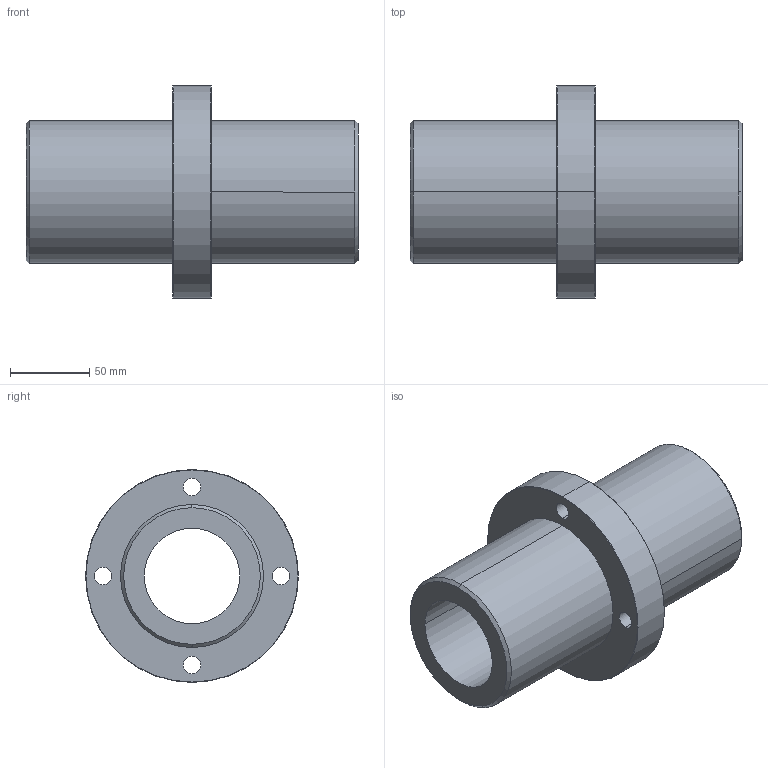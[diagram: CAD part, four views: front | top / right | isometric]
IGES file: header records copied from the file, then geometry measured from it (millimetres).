
Start section: 3D InterOp IGES (Version 21 0 1), Spatial Corp. Copyright (c) 1999-2007.
Global section: file name: CFPJR60.igs; native system: Spatial Corp.; preprocessor: 3D InterOp GENERIC/IGES 3.0; author: Noname; organization: Noname; date: 20220324.132105; units: millimetre
Bounding box: 209 x 134 x 134 mm (x, y, z)
Surface area: 126952.6 mm2 (no closed solid volume)
Topology: 0 solids, 0 shells, 40 faces, 180 edges, 180 vertices
Faces by surface type: revolution 32, extrusion 8
